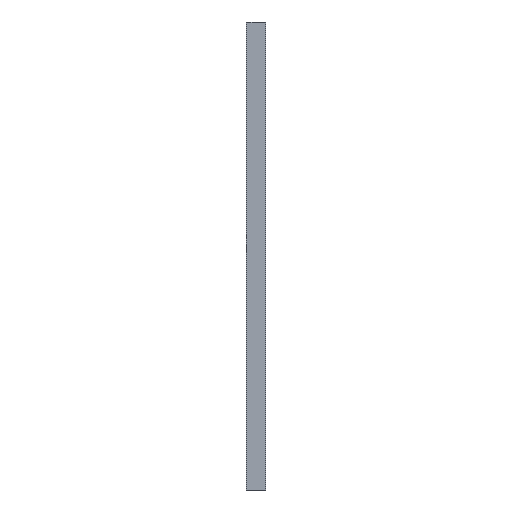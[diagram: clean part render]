
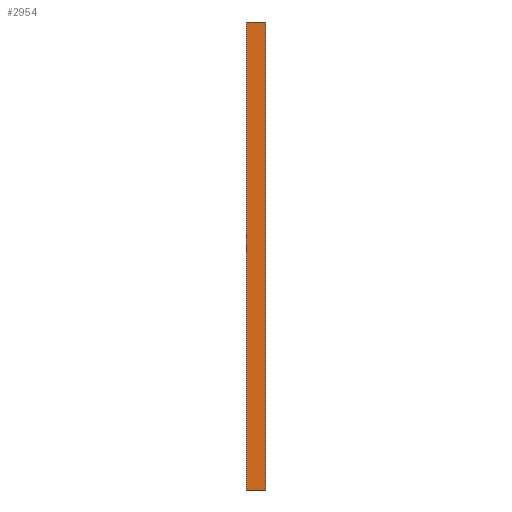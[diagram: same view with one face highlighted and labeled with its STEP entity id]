
A CAD part, left-side view. The second image highlights one B-rep face of the part: STEP entity #2954.
In plain terms, the highlighted planar face has unit normal (-1, 0, 0).
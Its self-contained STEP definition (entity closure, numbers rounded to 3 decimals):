
#183=PLANE('',#3213);
#598=ORIENTED_EDGE('',*,*,#1480,.T.);
#599=ORIENTED_EDGE('',*,*,#1481,.F.);
#600=ORIENTED_EDGE('',*,*,#1455,.F.);
#601=ORIENTED_EDGE('',*,*,#1479,.T.);
#1455=EDGE_CURVE('',#1876,#1877,#2101,.T.);
#1479=EDGE_CURVE('',#1876,#1898,#2111,.T.);
#1480=EDGE_CURVE('',#1898,#1899,#2112,.T.);
#1481=EDGE_CURVE('',#1877,#1899,#2113,.T.);
#1876=VERTEX_POINT('',#4905);
#1877=VERTEX_POINT('',#4907);
#1898=VERTEX_POINT('',#4953);
#1899=VERTEX_POINT('',#4957);
#2101=LINE('',#4906,#2339);
#2111=LINE('',#4954,#2349);
#2112=LINE('',#4956,#2350);
#2113=LINE('',#4958,#2351);
#2339=VECTOR('',#3716,1000.);
#2349=VECTOR('',#3758,1000.);
#2350=VECTOR('',#3761,1000.);
#2351=VECTOR('',#3762,1000.);
#2542=EDGE_LOOP('',(#598,#599,#600,#601));
#2698=FACE_BOUND('',#2542,.T.);
#2954=ADVANCED_FACE('',(#2698),#183,.F.);
#3213=AXIS2_PLACEMENT_3D('',#4955,#3759,#3760);
#3716=DIRECTION('',(0.,-1.,0.));
#3758=DIRECTION('',(0.,0.,-1.));
#3759=DIRECTION('',(1.,0.,0.));
#3760=DIRECTION('',(0.,1.,0.));
#3761=DIRECTION('',(0.,-1.,0.));
#3762=DIRECTION('',(0.,0.,-1.));
#4905=CARTESIAN_POINT('',(-14.,39.3,576.5));
#4906=CARTESIAN_POINT('',(-14.,-7.5,576.5));
#4907=CARTESIAN_POINT('',(-14.,-7.5,576.5));
#4953=CARTESIAN_POINT('',(-14.,39.3,-576.5));
#4954=CARTESIAN_POINT('',(-14.,39.3,576.5));
#4955=CARTESIAN_POINT('',(-14.,-7.5,576.5));
#4956=CARTESIAN_POINT('',(-14.,-7.5,-576.5));
#4957=CARTESIAN_POINT('',(-14.,-7.5,-576.5));
#4958=CARTESIAN_POINT('',(-14.,-7.5,576.5));
